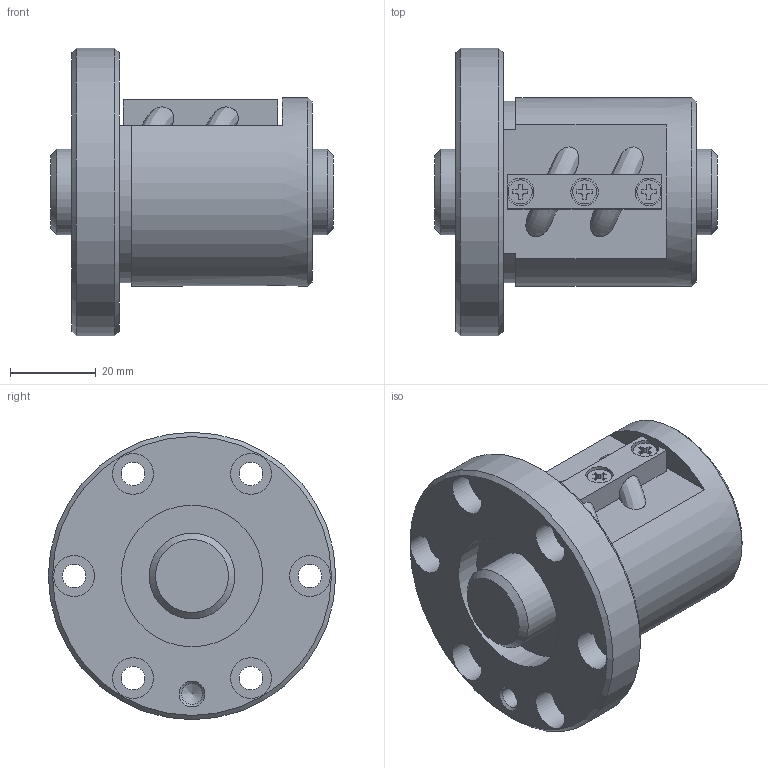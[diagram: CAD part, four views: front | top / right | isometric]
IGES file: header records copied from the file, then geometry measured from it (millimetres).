
Start section: Data from Parasolid IGES Translator 26.0.171, Copyright(c) 2006 Siemens PLM Software. All Rights Reserved.
Global section: file name: SBN2005V-5G0+66LC0(0000).igs; native system: By Siemens PLM Incorporated; preprocessor: XPlus GENERIC/IGES 26.0.171; author: Noname; organization: Noname; date: 20240528.102417; units: millimetre
Bounding box: 66 x 67 x 67 mm (x, y, z)
Surface area: 25872.4 mm2 (no closed solid volume)
Topology: 0 solids, 0 shells, 124 faces, 595 edges, 540 vertices
Faces by surface type: extrusion 69, revolution 55
